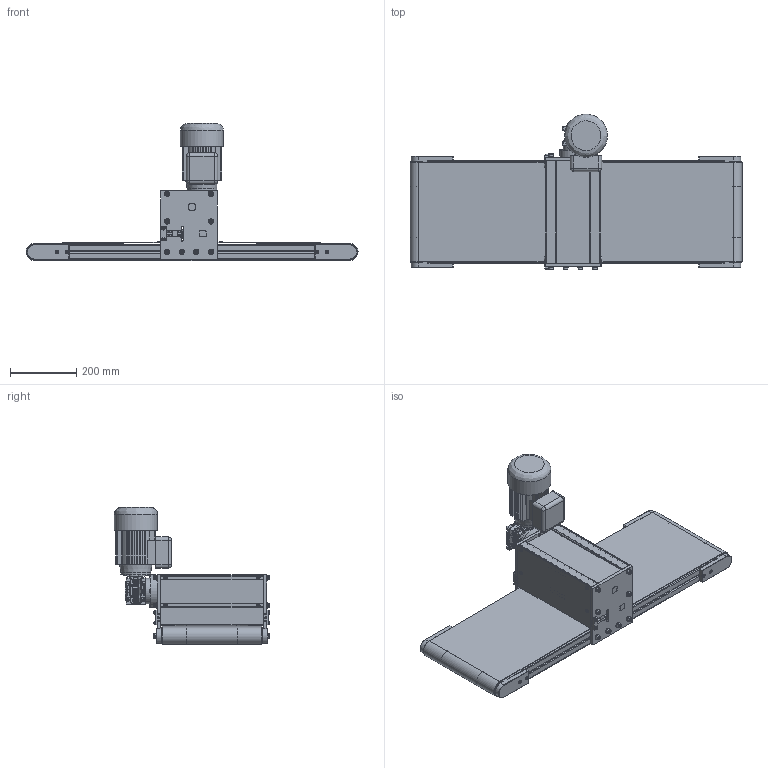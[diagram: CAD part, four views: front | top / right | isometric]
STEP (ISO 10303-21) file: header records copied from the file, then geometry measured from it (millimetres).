
FILE_DESCRIPTION (( 'STEP AP214' ), '1' );
FILE_NAME ('TB52 300X1000 INTERMEDIAIRE.STEP', '2022-10-10T13:04:26', ( '' ), ( '' ), 'SwSTEP 2.0', 'SolidWorks 2022', '' );
FILE_SCHEMA (( 'AUTOMOTIVE_DESIGN' ));
Length unit declared in the file: millimetre
Products named in the file (31): TUBE TB50_980-007; 19X30 INTERMEDIAIRE_Défaut[Brut d''usinage]; TH_910-093; 980-072M; ECROU_910-148N; CLAVETTE_910-165; CHASSIS TB52 INTERMEDIAIRE_Défaut<Brut d''usinage>; 980-064CM; TB52 300X1000 INTERMEDIAIRE; 982-012-180W; 905-020; 980-000; 980-006; 980-005HM; CHC THE_910-228; 980-073; 982-001B_982-001B-300; RONDELLE_910-111; CHC M8X25 + RP8; BHC_910-158; 982-000; 983-001; 980-062C; 982-011; CHC THE_910-068H; CHC THE_910-065H; 980-065C; 982-003; INTERMEDIAIRE NMRV030 TB50; CHC THE_910-053H; 910-010
Assembly tree (84 placements, depth 4):
  TB52 300X1000 INTERMEDIAIRE
    CHASSIS TB52 INTERMEDIAIRE_Défaut<Brut d''usinage>
    INTERMEDIAIRE NMRV030 TB50
      980-005HM
      CHC M8X25 + RP8  x16
        CHC THE_910-053H
        RONDELLE_910-111
      CHC THE_910-068H  x4
      905-020  x4
      CLAVETTE_910-165  x2
      980-072M
      TH_910-093  x4
      980-064CM
      980-065C
      980-073  x2
      BHC_910-158  x12
      CHC THE_910-228  x2
      ECROU_910-148N  x2
      980-006  x2
      980-000  x5
      TUBE TB50_980-007  x3
      19X30 INTERMEDIAIRE_Défaut[Brut d''usinage]
      980-062C  x3
      982-012-180W
      982-011
    983-001  x4
      982-000
      982-003
      CHC THE_910-065H
      910-010
    982-001B_982-001B-300  x2
Bounding box: 1000 x 468.6 x 413 mm (x, y, z)
Volume: 11148949.7 mm3; surface area: 4361489 mm2
Topology: 123 solids, 128 shells, 3343 faces, 8097 edges, 5203 vertices
Faces by surface type: plane 2089, cylinder 633, cone 478, torus 138, bspline 5
Full cylindrical faces by diameter (mm): 3.242 x1, 4 x12, 4.2 x8, 5 x20, 5.98 x14, 6 x54, 6.2 x8, 6.5 x12, 6.8 x8, 7.3 x9, 7.98 x16, 8 x20, 8.2 x16, 8.4 x16, 10 x14, 10.5 x16, 11 x9, 13 x16, 14 x1, 15 x9, 16 x17, 20 x12, 21 x8, 24 x4, 25 x5, 26 x10, 29 x8, 30 x3, 31 x2, 32 x2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
Entity records: 55394 total; most frequent: CARTESIAN_POINT 11006, ORIENTED_EDGE 8422, DIRECTION 8248, EDGE_CURVE 4211, VECTOR 2912, LINE 2912, VERTEX_POINT 2893, AXIS2_PLACEMENT_3D 2668
